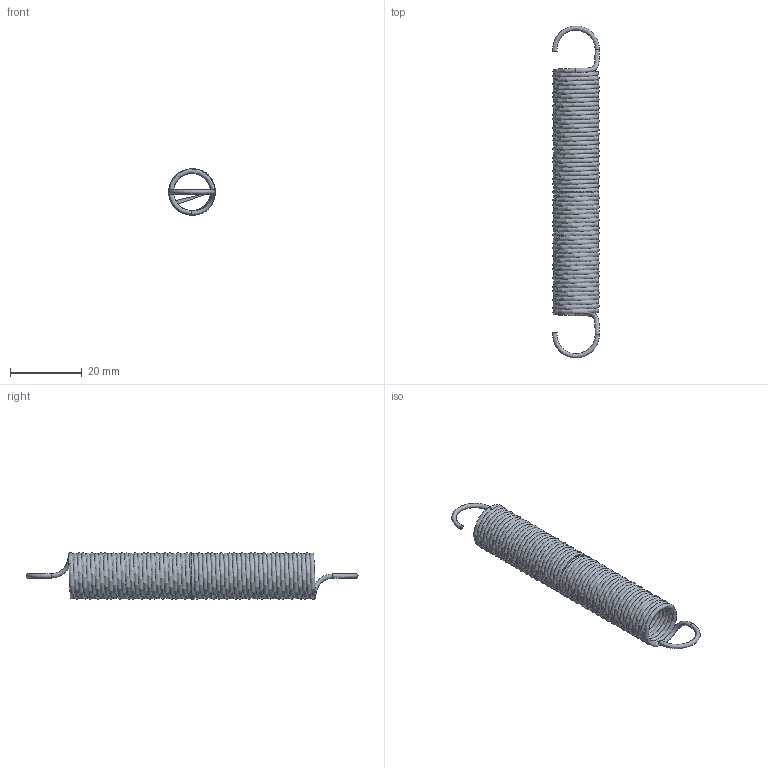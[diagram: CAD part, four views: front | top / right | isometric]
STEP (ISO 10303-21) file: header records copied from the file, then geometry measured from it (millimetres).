
FILE_DESCRIPTION(/* description */ ('42.2 | 0,21 | 0'),/* implementation_level */ '2;1');
FILE_NAME(/* name */ 'T11210.step',/* time_stamp */ '2026-10-05T09:53:30+02:00',/* author */ ('impex-ready.pl'),/* organization */ ('T11210'),/* preprocessor_version */ 'ST-DEVELOPER v20.1',/* originating_system */ 'Autodesk Inventor 2026',/* authorisation */ 'stal sprezynowa');
FILE_SCHEMA (('AUTOMOTIVE_DESIGN { 1 0 10303 214 3 1 1 }'));
Length unit declared in the file: millimetre
Products named in the file (1): T11210
Bounding box: 13 x 92.6 x 13 mm (x, y, z)
Volume: 2438.7 mm3; surface area: 8132.9 mm2
Topology: 1 solids, 1 shells, 10 faces, 32 edges, 20 vertices
Faces by surface type: bspline 6, plane 4
Entity records: 9072 total; most frequent: CARTESIAN_POINT 8784, ORIENTED_EDGE 64, DIRECTION 34, EDGE_CURVE 32, B_SPLINE_CURVE_WITH_KNOTS 20, VERTEX_POINT 20, AXIS2_PLACEMENT_3D 17, CIRCLE 12
